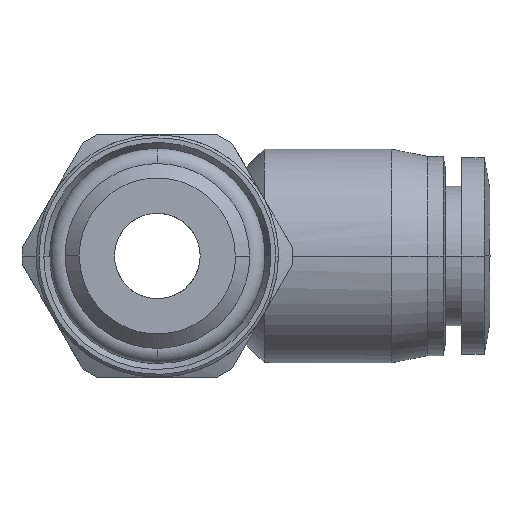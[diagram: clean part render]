
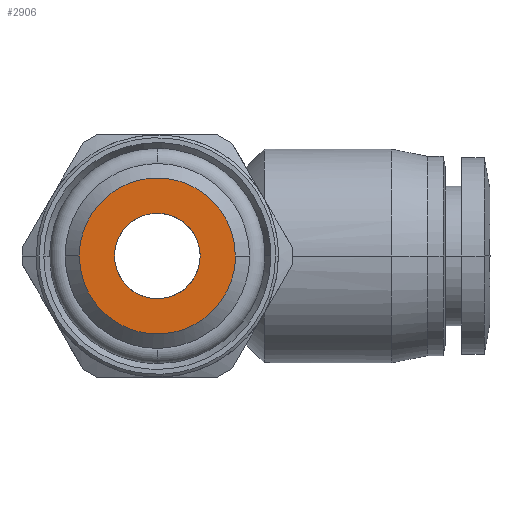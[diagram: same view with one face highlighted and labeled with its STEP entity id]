
A CAD part, front view. The second image highlights one B-rep face of the part: STEP entity #2906.
In plain terms, the highlighted planar face has unit normal (0, -1, 0).
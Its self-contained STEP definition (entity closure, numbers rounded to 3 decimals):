
#4 = CARTESIAN_POINT ( 'NONE',  ( -2.402, -12., -1.84 ) ) ;
#50 = B_SPLINE_CURVE_WITH_KNOTS ( 'NONE', 3,
 ( #5053, #5460, #4497, #1274, #4523, #1377, #2213, #1351, #1325, #431, #4154, #4125, #400, #4, #1833, #4974, #4070, #3200 ),
 .UNSPECIFIED., .F., .F.,
 ( 4, 2, 2, 2, 2, 2, 2, 2, 4 ),
 ( 0., 0.062, 0.125, 0.187, 0.25, 0.312, 0.375, 0.437, 0.5 ),
 .UNSPECIFIED. ) ;
#63 = DIRECTION ( 'NONE',  ( 0., -1., 0. ) ) ;
#275 = CARTESIAN_POINT ( 'NONE',  ( 5.475, -12., 0. ) ) ;
#307 = CARTESIAN_POINT ( 'NONE',  ( -5.475, -12., 0. ) ) ;
#331 = CARTESIAN_POINT ( 'NONE',  ( -3., -12., 0. ) ) ;
#341 = CARTESIAN_POINT ( 'NONE',  ( 2.759, -12., 4.783 ) ) ;
#380 = CARTESIAN_POINT ( 'NONE',  ( -4.379, -12., -3.363 ) ) ;
#400 = CARTESIAN_POINT ( 'NONE',  ( -1.84, -12., -2.402 ) ) ;
#406 = AXIS2_PLACEMENT_3D ( 'NONE', #3287, #63, #461 ) ;
#431 = CARTESIAN_POINT ( 'NONE',  ( -0.397, -12., -3. ) ) ;
#461 = DIRECTION ( 'NONE',  ( 0., 0., -1. ) ) ;
#699 = CARTESIAN_POINT ( 'NONE',  ( -3.363, -12., 4.379 ) ) ;
#754 = CARTESIAN_POINT ( 'NONE',  ( 3., -12., 0. ) ) ;
#960 = CARTESIAN_POINT ( 'NONE',  ( 5.475, -12., 0. ) ) ;
#988 = B_SPLINE_CURVE_WITH_KNOTS ( 'NONE', 3,
 ( #331, #1680, #5393, #4487, #4840, #1203, #1263, #4962, #3107, #3590, #1714, #5424, #5740, #3039, #5837, #2105, #5296, #754 ),
 .UNSPECIFIED., .F., .F.,
 ( 4, 2, 2, 2, 2, 2, 2, 2, 4 ),
 ( 0.5, 0.563, 0.625, 0.688, 0.75, 0.813, 0.875, 0.938, 1. ),
 .UNSPECIFIED. ) ;
#1203 = CARTESIAN_POINT ( 'NONE',  ( -1.84, -12., 2.402 ) ) ;
#1263 = CARTESIAN_POINT ( 'NONE',  ( -1.515, -12., 2.619 ) ) ;
#1274 = CARTESIAN_POINT ( 'NONE',  ( 2.62, -12., -1.515 ) ) ;
#1284 = CARTESIAN_POINT ( 'NONE',  ( -1.432, -12., -5.333 ) ) ;
#1325 = CARTESIAN_POINT ( 'NONE',  ( 0.397, -12., -3. ) ) ;
#1351 = CARTESIAN_POINT ( 'NONE',  ( 0.781, -12., -2.924 ) ) ;
#1377 = CARTESIAN_POINT ( 'NONE',  ( 1.84, -12., -2.402 ) ) ;
#1447 = EDGE_CURVE ( 'NONE', #2993, #2364, #50, .T. ) ;
#1475 = CARTESIAN_POINT ( 'NONE',  ( 2.759, -12., -4.783 ) ) ;
#1506 = CARTESIAN_POINT ( 'NONE',  ( 5.333, -12., -1.432 ) ) ;
#1656 = CARTESIAN_POINT ( 'NONE',  ( 3.364, -12., 4.379 ) ) ;
#1680 = CARTESIAN_POINT ( 'NONE',  ( -3., -12., 0.397 ) ) ;
#1714 = CARTESIAN_POINT ( 'NONE',  ( 0.781, -12., 2.924 ) ) ;
#1760 = CARTESIAN_POINT ( 'NONE',  ( -2.759, -12., -4.783 ) ) ;
#1833 = CARTESIAN_POINT ( 'NONE',  ( -2.619, -12., -1.515 ) ) ;
#1892 = FACE_OUTER_BOUND ( 'NONE', #4913, .T. ) ;
#1927 = B_SPLINE_CURVE_WITH_KNOTS ( 'NONE', 3,
 ( #275, #3115, #3920, #4470, #2113, #1656, #341, #4495, #3504, #3891, #5720, #5340, #699, #2601, #3538, #2182, #5374, #307 ),
 .UNSPECIFIED., .F., .F.,
 ( 4, 2, 2, 2, 2, 2, 2, 2, 4 ),
 ( 0.5, 0.563, 0.625, 0.688, 0.75, 0.813, 0.875, 0.938, 1. ),
 .UNSPECIFIED. ) ;
#2105 = CARTESIAN_POINT ( 'NONE',  ( 2.924, -12., 0.781 ) ) ;
#2113 = CARTESIAN_POINT ( 'NONE',  ( 4.379, -12., 3.363 ) ) ;
#2182 = CARTESIAN_POINT ( 'NONE',  ( -5.333, -12., 1.432 ) ) ;
#2213 = CARTESIAN_POINT ( 'NONE',  ( 1.515, -12., -2.619 ) ) ;
#2221 = CARTESIAN_POINT ( 'NONE',  ( -0.718, -12., -5.475 ) ) ;
#2364 = VERTEX_POINT ( 'NONE', #2653 ) ;
#2451 = CARTESIAN_POINT ( 'NONE',  ( 4.783, -12., -2.759 ) ) ;
#2601 = CARTESIAN_POINT ( 'NONE',  ( -4.379, -12., 3.364 ) ) ;
#2653 = CARTESIAN_POINT ( 'NONE',  ( -3., -12., 0. ) ) ;
#2671 = CARTESIAN_POINT ( 'NONE',  ( -5.475, -12., -0.719 ) ) ;
#2840 = CARTESIAN_POINT ( 'NONE',  ( 4.379, -12., -3.364 ) ) ;
#2906 = ADVANCED_FACE ( 'NONE', ( #4660, #1892 ), #4103, .T. ) ;
#2951 = CARTESIAN_POINT ( 'NONE',  ( 3., -12., 0. ) ) ;
#2993 = VERTEX_POINT ( 'NONE', #2951 ) ;
#3039 = CARTESIAN_POINT ( 'NONE',  ( 2.402, -12., 1.84 ) ) ;
#3107 = CARTESIAN_POINT ( 'NONE',  ( -0.397, -12., 3. ) ) ;
#3115 = CARTESIAN_POINT ( 'NONE',  ( 5.475, -12., 0.718 ) ) ;
#3129 = CARTESIAN_POINT ( 'NONE',  ( -3.364, -12., -4.379 ) ) ;
#3185 = VERTEX_POINT ( 'NONE', #960 ) ;
#3200 = CARTESIAN_POINT ( 'NONE',  ( -3., -12., 0. ) ) ;
#3238 = CARTESIAN_POINT ( 'NONE',  ( -5.475, -12., 0. ) ) ;
#3287 = CARTESIAN_POINT ( 'NONE',  ( -2.737, -12., 0. ) ) ;
#3356 = CARTESIAN_POINT ( 'NONE',  ( 5.475, -12., 0. ) ) ;
#3504 = CARTESIAN_POINT ( 'NONE',  ( 0.718, -12., 5.475 ) ) ;
#3538 = CARTESIAN_POINT ( 'NONE',  ( -4.783, -12., 2.759 ) ) ;
#3570 = B_SPLINE_CURVE_WITH_KNOTS ( 'NONE', 3,
 ( #4504, #2671, #5888, #4052, #380, #3129, #1760, #1284, #2221, #4730, #5243, #1475, #3841, #2840, #2451, #1506, #4250, #3356 ),
 .UNSPECIFIED., .F., .F.,
 ( 4, 2, 2, 2, 2, 2, 2, 2, 4 ),
 ( 0., 0.063, 0.125, 0.188, 0.25, 0.313, 0.375, 0.438, 0.5 ),
 .UNSPECIFIED. ) ;
#3590 = CARTESIAN_POINT ( 'NONE',  ( 0.397, -12., 3. ) ) ;
#3841 = CARTESIAN_POINT ( 'NONE',  ( 3.363, -12., -4.379 ) ) ;
#3891 = CARTESIAN_POINT ( 'NONE',  ( -0.718, -12., 5.475 ) ) ;
#3920 = CARTESIAN_POINT ( 'NONE',  ( 5.333, -12., 1.432 ) ) ;
#4052 = CARTESIAN_POINT ( 'NONE',  ( -4.783, -12., -2.759 ) ) ;
#4070 = CARTESIAN_POINT ( 'NONE',  ( -3., -12., -0.397 ) ) ;
#4103 = PLANE ( 'NONE',  #406 ) ;
#4125 = CARTESIAN_POINT ( 'NONE',  ( -1.515, -12., -2.62 ) ) ;
#4154 = CARTESIAN_POINT ( 'NONE',  ( -0.781, -12., -2.924 ) ) ;
#4243 = EDGE_CURVE ( 'NONE', #3185, #4703, #1927, .T. ) ;
#4250 = CARTESIAN_POINT ( 'NONE',  ( 5.475, -12., -0.718 ) ) ;
#4469 = EDGE_LOOP ( 'NONE', ( #5155, #4662 ) ) ;
#4470 = CARTESIAN_POINT ( 'NONE',  ( 4.783, -12., 2.759 ) ) ;
#4487 = CARTESIAN_POINT ( 'NONE',  ( -2.62, -12., 1.515 ) ) ;
#4495 = CARTESIAN_POINT ( 'NONE',  ( 1.432, -12., 5.333 ) ) ;
#4497 = CARTESIAN_POINT ( 'NONE',  ( 2.924, -12., -0.781 ) ) ;
#4504 = CARTESIAN_POINT ( 'NONE',  ( -5.475, -12., 0. ) ) ;
#4523 = CARTESIAN_POINT ( 'NONE',  ( 2.402, -12., -1.84 ) ) ;
#4660 = FACE_BOUND ( 'NONE', #4469, .T. ) ;
#4662 = ORIENTED_EDGE ( 'NONE', *, *, #1447, .T. ) ;
#4703 = VERTEX_POINT ( 'NONE', #3238 ) ;
#4730 = CARTESIAN_POINT ( 'NONE',  ( 0.718, -12., -5.475 ) ) ;
#4840 = CARTESIAN_POINT ( 'NONE',  ( -2.402, -12., 1.84 ) ) ;
#4913 = EDGE_LOOP ( 'NONE', ( #5498, #5289 ) ) ;
#4962 = CARTESIAN_POINT ( 'NONE',  ( -0.781, -12., 2.924 ) ) ;
#4974 = CARTESIAN_POINT ( 'NONE',  ( -2.924, -12., -0.781 ) ) ;
#5053 = CARTESIAN_POINT ( 'NONE',  ( 3., -12., 0. ) ) ;
#5155 = ORIENTED_EDGE ( 'NONE', *, *, #5638, .T. ) ;
#5243 = CARTESIAN_POINT ( 'NONE',  ( 1.432, -12., -5.333 ) ) ;
#5289 = ORIENTED_EDGE ( 'NONE', *, *, #4243, .T. ) ;
#5296 = CARTESIAN_POINT ( 'NONE',  ( 3., -12., 0.398 ) ) ;
#5340 = CARTESIAN_POINT ( 'NONE',  ( -2.759, -12., 4.783 ) ) ;
#5374 = CARTESIAN_POINT ( 'NONE',  ( -5.475, -12., 0.719 ) ) ;
#5393 = CARTESIAN_POINT ( 'NONE',  ( -2.924, -12., 0.781 ) ) ;
#5424 = CARTESIAN_POINT ( 'NONE',  ( 1.515, -12., 2.62 ) ) ;
#5460 = CARTESIAN_POINT ( 'NONE',  ( 3., -12., -0.398 ) ) ;
#5498 = ORIENTED_EDGE ( 'NONE', *, *, #5886, .T. ) ;
#5638 = EDGE_CURVE ( 'NONE', #2364, #2993, #988, .T. ) ;
#5720 = CARTESIAN_POINT ( 'NONE',  ( -1.432, -12., 5.333 ) ) ;
#5740 = CARTESIAN_POINT ( 'NONE',  ( 1.84, -12., 2.402 ) ) ;
#5837 = CARTESIAN_POINT ( 'NONE',  ( 2.619, -12., 1.515 ) ) ;
#5886 = EDGE_CURVE ( 'NONE', #4703, #3185, #3570, .T. ) ;
#5888 = CARTESIAN_POINT ( 'NONE',  ( -5.333, -12., -1.432 ) ) ;
